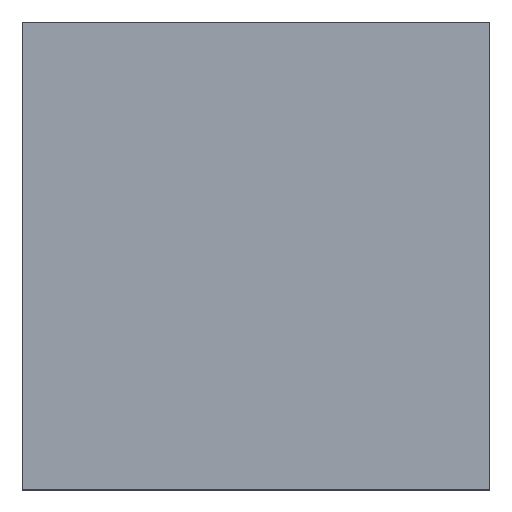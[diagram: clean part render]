
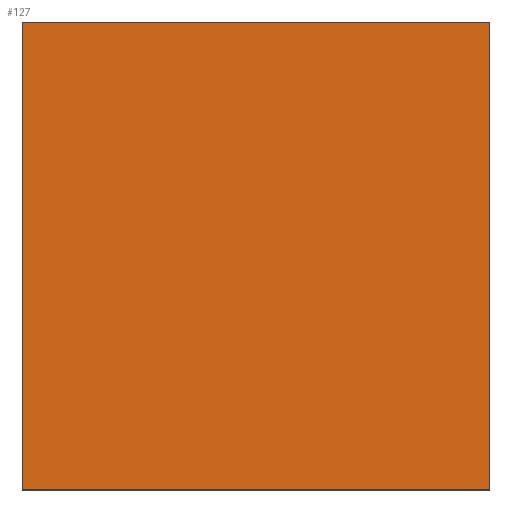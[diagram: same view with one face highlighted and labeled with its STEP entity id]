
A CAD part, top view. The second image highlights one B-rep face of the part: STEP entity #127.
In plain terms, the highlighted planar face has unit normal (0, 0, 1).
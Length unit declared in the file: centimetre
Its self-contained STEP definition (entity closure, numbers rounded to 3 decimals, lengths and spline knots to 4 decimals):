
#15 = CARTESIAN_POINT ( 'NONE',  ( 0., 0., 1000. ) ) ;
#18 = EDGE_CURVE ( 'NONE', #446, #202, #132, .T. ) ;
#29 = DIRECTION ( 'NONE',  ( 0., 1., 0. ) ) ;
#48 = FACE_OUTER_BOUND ( 'NONE', #318, .T. ) ;
#53 = LINE ( 'NONE', #388, #377 ) ;
#59 = LINE ( 'NONE', #523, #338 ) ;
#88 = CARTESIAN_POINT ( 'NONE',  ( 0., 0., 1000. ) ) ;
#127 = ADVANCED_FACE ( 'NONE', ( #48 ), #432, .T. ) ;
#129 = CARTESIAN_POINT ( 'NONE',  ( 0., 1000., 1000. ) ) ;
#132 = LINE ( 'NONE', #301, #276 ) ;
#135 = CARTESIAN_POINT ( 'NONE',  ( 0., 0., 1000. ) ) ;
#154 = VERTEX_POINT ( 'NONE', #15 ) ;
#161 = ORIENTED_EDGE ( 'NONE', *, *, #471, .T. ) ;
#162 = VECTOR ( 'NONE', #228, 100. ) ;
#170 = LINE ( 'NONE', #135, #162 ) ;
#181 = DIRECTION ( 'NONE',  ( 0., -1., 0. ) ) ;
#202 = VERTEX_POINT ( 'NONE', #129 ) ;
#228 = DIRECTION ( 'NONE',  ( 1., 0., 0. ) ) ;
#259 = CARTESIAN_POINT ( 'NONE',  ( 1000., 1000., 1000. ) ) ;
#261 = DIRECTION ( 'NONE',  ( 0., 0., 1. ) ) ;
#268 = CARTESIAN_POINT ( 'NONE',  ( 1000., 0., 1000. ) ) ;
#276 = VECTOR ( 'NONE', #459, 100. ) ;
#282 = ORIENTED_EDGE ( 'NONE', *, *, #444, .T. ) ;
#301 = CARTESIAN_POINT ( 'NONE',  ( 0., 1000., 1000. ) ) ;
#318 = EDGE_LOOP ( 'NONE', ( #282, #161, #417, #371 ) ) ;
#338 = VECTOR ( 'NONE', #29, 100. ) ;
#371 = ORIENTED_EDGE ( 'NONE', *, *, #18, .T. ) ;
#377 = VECTOR ( 'NONE', #181, 100. ) ;
#382 = EDGE_CURVE ( 'NONE', #439, #446, #59, .T. ) ;
#388 = CARTESIAN_POINT ( 'NONE',  ( 0., 1000., 1000. ) ) ;
#404 = AXIS2_PLACEMENT_3D ( 'NONE', #88, #261, #510 ) ;
#417 = ORIENTED_EDGE ( 'NONE', *, *, #382, .T. ) ;
#432 = PLANE ( 'NONE',  #404 ) ;
#439 = VERTEX_POINT ( 'NONE', #268 ) ;
#444 = EDGE_CURVE ( 'NONE', #202, #154, #53, .T. ) ;
#446 = VERTEX_POINT ( 'NONE', #259 ) ;
#459 = DIRECTION ( 'NONE',  ( -1., 0., 0. ) ) ;
#471 = EDGE_CURVE ( 'NONE', #154, #439, #170, .T. ) ;
#510 = DIRECTION ( 'NONE',  ( 1., 0., 0. ) ) ;
#523 = CARTESIAN_POINT ( 'NONE',  ( 1000., 1000., 1000. ) ) ;
